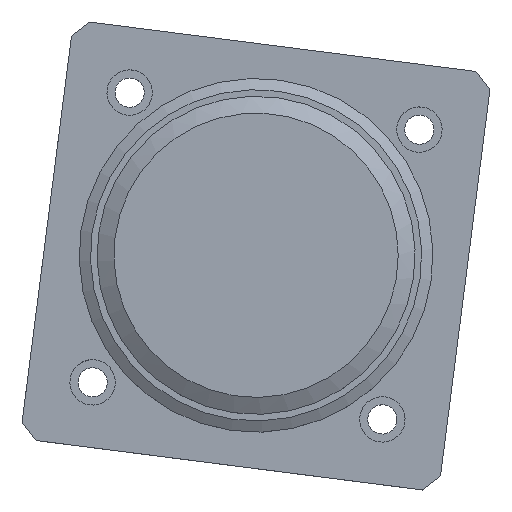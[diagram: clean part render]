
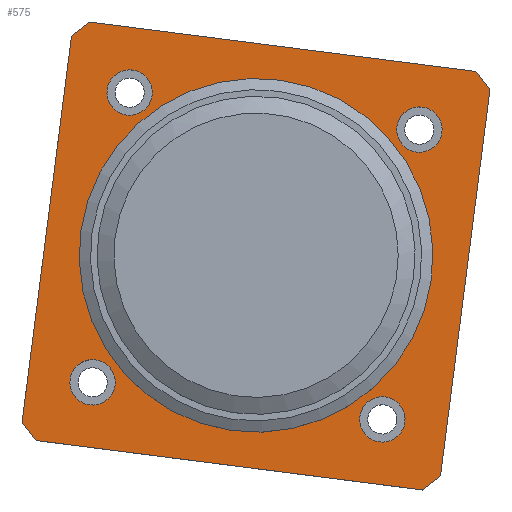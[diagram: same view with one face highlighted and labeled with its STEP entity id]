
A CAD part, top view. The second image highlights one B-rep face of the part: STEP entity #575.
In plain terms, the highlighted planar face has unit normal (0, 0, 1).
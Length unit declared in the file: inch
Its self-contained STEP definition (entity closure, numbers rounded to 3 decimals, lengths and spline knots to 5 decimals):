
#16=LINE('',#935,#40);
#19=LINE('',#941,#43);
#22=LINE('',#947,#46);
#25=LINE('',#953,#49);
#28=LINE('',#959,#52);
#31=LINE('',#965,#55);
#34=LINE('',#971,#58);
#37=LINE('',#975,#61);
#40=VECTOR('',#788,0.3937);
#43=VECTOR('',#793,0.3937);
#46=VECTOR('',#798,0.3937);
#49=VECTOR('',#803,0.3937);
#52=VECTOR('',#808,0.3937);
#55=VECTOR('',#813,0.3937);
#58=VECTOR('',#818,0.3937);
#61=VECTOR('',#823,0.3937);
#83=PLANE('',#664);
#149=FACE_BOUND('',#260,.T.);
#150=FACE_BOUND('',#261,.T.);
#151=FACE_BOUND('',#262,.T.);
#152=FACE_BOUND('',#263,.T.);
#153=FACE_BOUND('',#264,.T.);
#192=FACE_OUTER_BOUND('',#259,.T.);
#259=EDGE_LOOP('',(#505,#506,#507,#508,#509,#510,#511,#512));
#260=EDGE_LOOP('',(#513));
#261=EDGE_LOOP('',(#514));
#262=EDGE_LOOP('',(#515));
#263=EDGE_LOOP('',(#516));
#264=EDGE_LOOP('',(#517));
#288=CIRCLE('',#629,0.27559);
#292=CIRCLE('',#636,0.27559);
#296=CIRCLE('',#643,0.27559);
#300=CIRCLE('',#650,0.27559);
#302=CIRCLE('',#654,1.85433);
#321=VERTEX_POINT('',#887);
#325=VERTEX_POINT('',#898);
#329=VERTEX_POINT('',#909);
#333=VERTEX_POINT('',#920);
#335=VERTEX_POINT('',#926);
#338=VERTEX_POINT('',#932);
#339=VERTEX_POINT('',#934);
#341=VERTEX_POINT('',#940);
#343=VERTEX_POINT('',#946);
#345=VERTEX_POINT('',#952);
#347=VERTEX_POINT('',#958);
#349=VERTEX_POINT('',#964);
#351=VERTEX_POINT('',#970);
#370=EDGE_CURVE('',#321,#321,#288,.T.);
#374=EDGE_CURVE('',#325,#325,#292,.T.);
#378=EDGE_CURVE('',#329,#329,#296,.T.);
#382=EDGE_CURVE('',#333,#333,#300,.T.);
#384=EDGE_CURVE('',#335,#335,#302,.T.);
#387=EDGE_CURVE('',#339,#338,#16,.T.);
#390=EDGE_CURVE('',#341,#339,#19,.T.);
#393=EDGE_CURVE('',#343,#341,#22,.T.);
#396=EDGE_CURVE('',#345,#343,#25,.T.);
#399=EDGE_CURVE('',#347,#345,#28,.T.);
#402=EDGE_CURVE('',#349,#347,#31,.T.);
#405=EDGE_CURVE('',#351,#349,#34,.T.);
#408=EDGE_CURVE('',#338,#351,#37,.T.);
#505=ORIENTED_EDGE('',*,*,#408,.T.);
#506=ORIENTED_EDGE('',*,*,#405,.T.);
#507=ORIENTED_EDGE('',*,*,#402,.T.);
#508=ORIENTED_EDGE('',*,*,#399,.T.);
#509=ORIENTED_EDGE('',*,*,#396,.T.);
#510=ORIENTED_EDGE('',*,*,#393,.T.);
#511=ORIENTED_EDGE('',*,*,#390,.T.);
#512=ORIENTED_EDGE('',*,*,#387,.T.);
#513=ORIENTED_EDGE('',*,*,#370,.T.);
#514=ORIENTED_EDGE('',*,*,#374,.T.);
#515=ORIENTED_EDGE('',*,*,#378,.T.);
#516=ORIENTED_EDGE('',*,*,#382,.T.);
#517=ORIENTED_EDGE('',*,*,#384,.T.);
#575=ADVANCED_FACE('',(#192,#149,#150,#151,#152,#153),#83,.T.);
#629=AXIS2_PLACEMENT_3D('',#888,#732,#733);
#636=AXIS2_PLACEMENT_3D('',#899,#746,#747);
#643=AXIS2_PLACEMENT_3D('',#910,#760,#761);
#650=AXIS2_PLACEMENT_3D('',#921,#774,#775);
#654=AXIS2_PLACEMENT_3D('',#927,#782,#783);
#664=AXIS2_PLACEMENT_3D('',#977,#826,#827);
#732=DIRECTION('center_axis',(0.,0.,
-1.));
#733=DIRECTION('ref_axis',(0.992,-0.127,0.));
#746=DIRECTION('center_axis',(0.,0.,
-1.));
#747=DIRECTION('ref_axis',(0.992,-0.127,0.));
#760=DIRECTION('center_axis',(0.,0.,
-1.));
#761=DIRECTION('ref_axis',(0.992,-0.127,0.));
#774=DIRECTION('center_axis',(0.,0.,
-1.));
#775=DIRECTION('ref_axis',(0.992,-0.127,0.));
#782=DIRECTION('center_axis',(0.,0.,
-1.));
#783=DIRECTION('ref_axis',(-0.992,0.127,0.));
#788=DIRECTION('',(-0.992,0.127,0.));
#793=DIRECTION('',(-0.612,0.791,0.));
#798=DIRECTION('',(0.127,0.992,0.));
#803=DIRECTION('',(0.791,0.612,0.));
#808=DIRECTION('',(0.992,-0.127,0.));
#813=DIRECTION('',(0.612,-0.791,0.));
#818=DIRECTION('',(-0.127,-0.992,0.));
#823=DIRECTION('',(-0.791,-0.612,0.));
#826=DIRECTION('center_axis',(0.,0.,
1.));
#827=DIRECTION('ref_axis',(0.992,-0.127,0.));
#887=CARTESIAN_POINT('',(12.74287,34.49046,3.34292));
#888=CARTESIAN_POINT('Origin',(12.4695,34.52542,3.34297));
#898=CARTESIAN_POINT('',(9.67766,38.45462,3.34383));
#899=CARTESIAN_POINT('Origin',(9.40429,38.48957,3.34388));
#909=CARTESIAN_POINT('',(9.22818,34.93993,3.3435));
#910=CARTESIAN_POINT('Origin',(8.95482,34.97489,3.34354));
#920=CARTESIAN_POINT('',(13.19234,38.00514,3.34326));
#921=CARTESIAN_POINT('Origin',(12.91898,38.0401,3.3433));
#926=CARTESIAN_POINT('',(12.77625,36.27227,3.34312));
#927=CARTESIAN_POINT('Origin',(10.9369,36.5075,3.34342));
#932=CARTESIAN_POINT('',(8.91839,39.34553,3.34405));
#934=CARTESIAN_POINT('',(13.60464,38.74623,3.34328));
#935=CARTESIAN_POINT('',(8.91839,39.34553,3.34405));
#940=CARTESIAN_POINT('',(13.77493,38.526,3.34323));
#941=CARTESIAN_POINT('',(13.60464,38.74623,3.34328));
#946=CARTESIAN_POINT('',(13.17563,33.83975,3.34279));
#947=CARTESIAN_POINT('',(13.77493,38.526,3.34323));
#952=CARTESIAN_POINT('',(12.9554,33.66946,3.3428));
#953=CARTESIAN_POINT('',(13.17563,33.83975,3.34279));
#958=CARTESIAN_POINT('',(8.26916,34.26876,3.34357));
#959=CARTESIAN_POINT('',(12.9554,33.66946,3.3428));
#964=CARTESIAN_POINT('',(8.09887,34.48899,3.34362));
#965=CARTESIAN_POINT('',(8.26916,34.26876,3.34357));
#970=CARTESIAN_POINT('',(8.69816,39.17524,3.34406));
#971=CARTESIAN_POINT('',(8.09887,34.48899,3.34362));
#975=CARTESIAN_POINT('',(8.69816,39.17524,3.34406));
#977=CARTESIAN_POINT('Origin',(10.9369,36.5075,3.34342));
